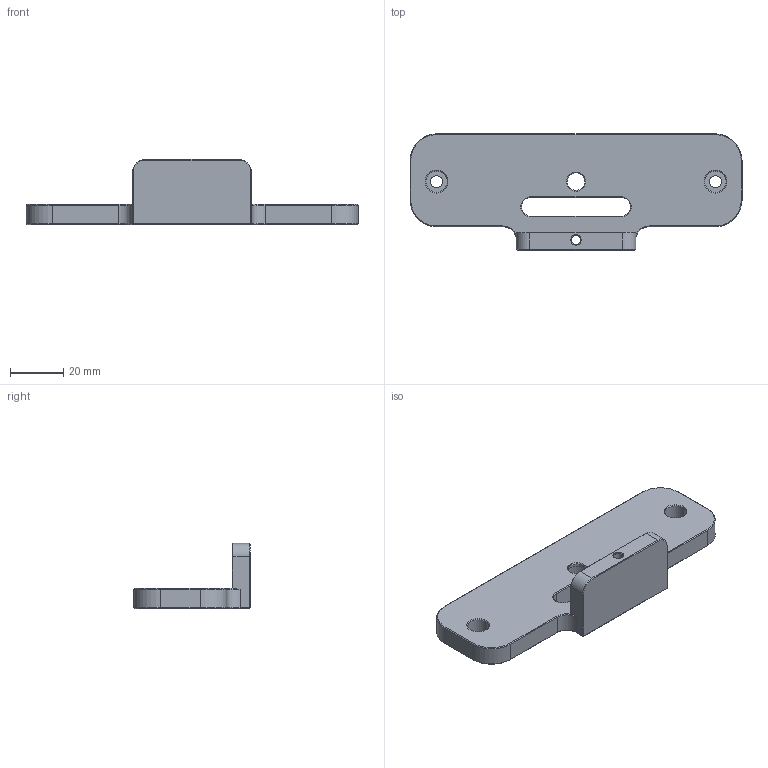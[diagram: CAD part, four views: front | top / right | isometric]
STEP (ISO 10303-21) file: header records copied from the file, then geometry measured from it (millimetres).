
FILE_DESCRIPTION (( 'STEP AP214' ), '1' );
FILE_NAME ('SLM蛌諉啣.STEP', '2026-09-11T03:09:55', ( '' ), ( '' ), 'SwSTEP 2.0', 'SolidWorks 2024', '' );
FILE_SCHEMA (( 'AUTOMOTIVE_DESIGN' ));
Length unit declared in the file: millimetre
Products named in the file (1): SLM转接板
Bounding box: 125 x 43.8 x 24.6 mm (x, y, z)
Volume: 37087.7 mm3; surface area: 14176.6 mm2
Topology: 1 solids, 1 shells, 108 faces, 248 edges, 145 vertices
Faces by surface type: plane 43, cone 38, cylinder 27
Entity records: 3046 total; most frequent: DIRECTION 557, CARTESIAN_POINT 513, ORIENTED_EDGE 496, EDGE_CURVE 248, AXIS2_PLACEMENT_3D 203, LINE 151, VECTOR 151, VERTEX_POINT 145
